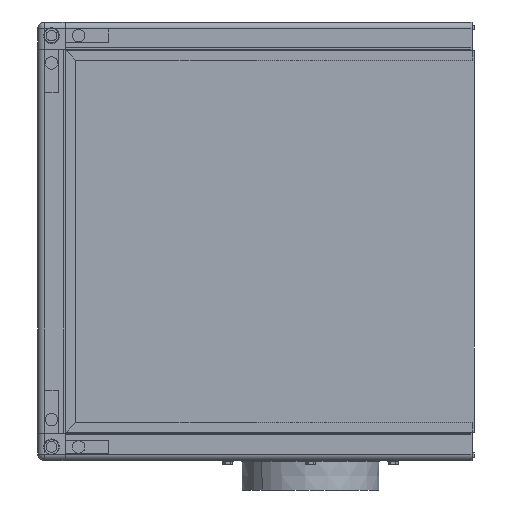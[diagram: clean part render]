
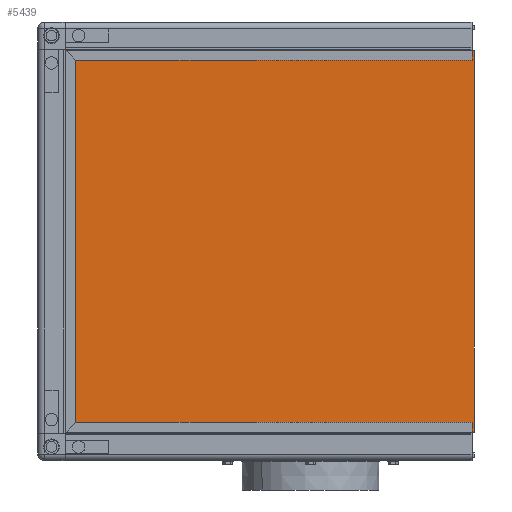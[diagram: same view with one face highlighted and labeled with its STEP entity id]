
A CAD part, left-side view. The second image highlights one B-rep face of the part: STEP entity #5439.
In plain terms, the highlighted planar face has unit normal (-1, 0, 0) as drawn and (0, 0, 1) by its records, which use the part's own axes.
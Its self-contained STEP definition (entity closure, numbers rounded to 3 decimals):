
#5277=DIRECTION('',(1.,0.,0.));
#5278=VECTOR('',#5277,350.);
#5279=CARTESIAN_POINT('',(-175.,0.,4.));
#5280=LINE('',#5279,#5278);
#5284=DIRECTION('',(0.,-1.,0.));
#5285=VECTOR('',#5284,375.);
#5286=CARTESIAN_POINT('',(-175.,375.,4.));
#5287=LINE('',#5286,#5285);
#5291=DIRECTION('',(-1.,0.,0.));
#5292=VECTOR('',#5291,350.);
#5293=CARTESIAN_POINT('',(175.,375.,4.));
#5294=LINE('',#5293,#5292);
#5298=DIRECTION('',(0.,1.,0.));
#5299=VECTOR('',#5298,375.);
#5300=CARTESIAN_POINT('',(175.,0.,4.));
#5301=LINE('',#5300,#5299);
#5313=CARTESIAN_POINT('',(-175.,0.,4.));
#5314=CARTESIAN_POINT('',(175.,0.,4.));
#5315=VERTEX_POINT('',#5313);
#5316=VERTEX_POINT('',#5314);
#5317=CARTESIAN_POINT('',(175.,375.,4.));
#5318=VERTEX_POINT('',#5317);
#5319=CARTESIAN_POINT('',(-175.,375.,4.));
#5320=VERTEX_POINT('',#5319);
#5428=CARTESIAN_POINT('',(0.,0.,4.));
#5429=DIRECTION('',(0.,0.,1.));
#5430=DIRECTION('',(1.,0.,0.));
#5431=AXIS2_PLACEMENT_3D('',#5428,#5429,#5430);
#5432=PLANE('',#5431);
#5433=ORIENTED_EDGE('',*,*,#5352,.F.);
#5434=ORIENTED_EDGE('',*,*,#5374,.F.);
#5435=ORIENTED_EDGE('',*,*,#5395,.F.);
#5436=ORIENTED_EDGE('',*,*,#5415,.F.);
#5437=EDGE_LOOP('',(#5433,#5434,#5435,#5436));
#5438=FACE_OUTER_BOUND('',#5437,.F.);
#5352=EDGE_CURVE('',#5315,#5316,#5280,.T.);
#5374=EDGE_CURVE('',#5320,#5315,#5287,.T.);
#5395=EDGE_CURVE('',#5318,#5320,#5294,.T.);
#5415=EDGE_CURVE('',#5316,#5318,#5301,.T.);
#5439=ADVANCED_FACE('',(#5438),#5432,.T.);
